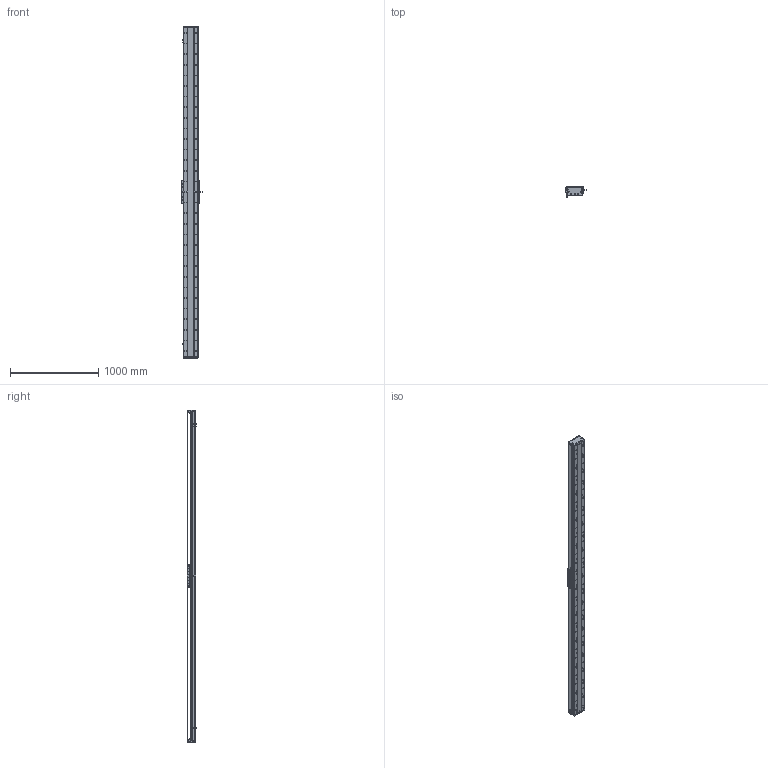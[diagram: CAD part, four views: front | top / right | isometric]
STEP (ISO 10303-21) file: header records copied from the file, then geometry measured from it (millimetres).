
FILE_DESCRIPTION (( 'STEP AP203' ), '1' );
FILE_NAME ('DA-C165-C3-T3420-C010-0.2 直线电机.STEP', '2023-06-13T09:03:37', ( '微软用户' ), ( '微软中国' ), 'SwSTEP 2.0', 'SolidWorks 2019', '' );
FILE_SCHEMA (( 'CONFIG_CONTROL_DESIGN' ));
Length unit declared in the file: millimetre
Products named in the file (18): 复件 CU165 底座^IU-CU165-L 底座导轨_L3720; 复件 DA95-HXJ-00 缓冲橡胶^DA-C165-C3-T-C010-0.2-N 直线电机; 复件 DA165-GD-DG-H-00 端盖^复件 CU165钢带组件_DA-C165-C3-T-C010-0.2-N 直线电机; DA-C165-C3-T3420-C010-0.2 眻盄萇儂; 葩璃 PM-T45^DA-C165-C3-T-C010-0.2-N 眻盄萇儂; 葩璃 DA95-GT-T-00^IU-CU165-L 菁釱絳寢_T; 复件 DA165-GD-1860-002-00 钢带盖板^复件 CU165钢带组件_DA-C165-C3-T-C010-0.2-N 直线电机; 葩璃 CKM03-W075-C1C2-TP-3.0^DA-C165-C3-T-C010-0.2-N 眻盄萇儂; IU-CU165-L 菁釱絳寢; 复件 DA165-GDLK-00 钢带拉块^复件 CU165钢带组件_DA-C165-C3-T-C010-0.2-N 直线电机; 复件 六角薄螺母 M3^DA-C165-C3-T-C010-0.2-N 直线电机_GB_FASTENER_NUT_STNAB M3-C; 复件 XD-U-02L 磁栅尺^DA-C165-C3-T-C010-0.2-N 直线电机_T; 珨极趙賑雄怢啣C3-wf; 复件 CU165钢带组件^DA-C165-C3-T-C010-0.2-N 直线电机; 葩璃 CKM01-W075-TRL^DA-C165-C3-T-C010-0.2-N 眻盄萇儂; 复件 DMA-010-0.2 读数头^DA-C165-C3-T-C010-0.2-N 直线电机; 复件 DA165-GYP-00 光电感应片^DA-C165-C3-T-C010-0.2-N 直线电机; 复件 DA165-GDYK-00 钢带压块^复件 CU165钢带组件_DA-C165-C3-T-C010-0.2-N 直线电机
Assembly tree (35 placements, depth 3):
  DA-C165-C3-T3420-C010-0.2 眻盄萇儂
    IU-CU165-L 菁釱絳寢
      复件 CU165 底座^IU-CU165-L 底座导轨_L3720
      葩璃 DA95-GT-T-00^IU-CU165-L 菁釱絳寢_T  x4
    复件 XD-U-02L 磁栅尺^DA-C165-C3-T-C010-0.2-N 直线电机_T
    葩璃 PM-T45^DA-C165-C3-T-C010-0.2-N 眻盄萇儂  x3
    葩璃 CKM01-W075-TRL^DA-C165-C3-T-C010-0.2-N 眻盄萇儂
    复件 CU165钢带组件^DA-C165-C3-T-C010-0.2-N 直线电机
      复件 DA165-GD-DG-H-00 端盖^复件 CU165钢带组件_DA-C165-C3-T-C010-0.2-N 直线电机  x2
      复件 DA165-GDYK-00 钢带压块^复件 CU165钢带组件_DA-C165-C3-T-C010-0.2-N 直线电机  x2
      复件 DA165-GD-1860-002-00 钢带盖板^复件 CU165钢带组件_DA-C165-C3-T-C010-0.2-N 直线电机
      复件 DA165-GDLK-00 钢带拉块^复件 CU165钢带组件_DA-C165-C3-T-C010-0.2-N 直线电机  x2
    复件 DA95-HXJ-00 缓冲橡胶^DA-C165-C3-T-C010-0.2-N 直线电机  x4
    复件 DA165-GYP-00 光电感应片^DA-C165-C3-T-C010-0.2-N 直线电机
    复件 DMA-010-0.2 读数头^DA-C165-C3-T-C010-0.2-N 直线电机
    葩璃 CKM03-W075-C1C2-TP-3.0^DA-C165-C3-T-C010-0.2-N 眻盄萇儂
    复件 六角薄螺母 M3^DA-C165-C3-T-C010-0.2-N 直线电机_GB_FASTENER_NUT_STNAB M3-C  x8
    珨极趙賑雄怢啣C3-wf
Bounding box: 233 x 111.45 x 3760 mm (x, y, z)
Volume: 20555809.5 mm3; surface area: 6228808 mm2
Topology: 72 solids, 122 shells, 4918 faces, 14577 edges, 9298 vertices
Faces by surface type: cylinder 3040, plane 1252, cone 576, torus 46, sphere 4
Entity records: 171767 total; most frequent: CARTESIAN_POINT 48891, ORIENTED_EDGE 25906, DIRECTION 24673, EDGE_CURVE 12953, AXIS2_PLACEMENT_3D 9534, VERTEX_POINT 8486, EDGE_LOOP 5933, LINE 5605
